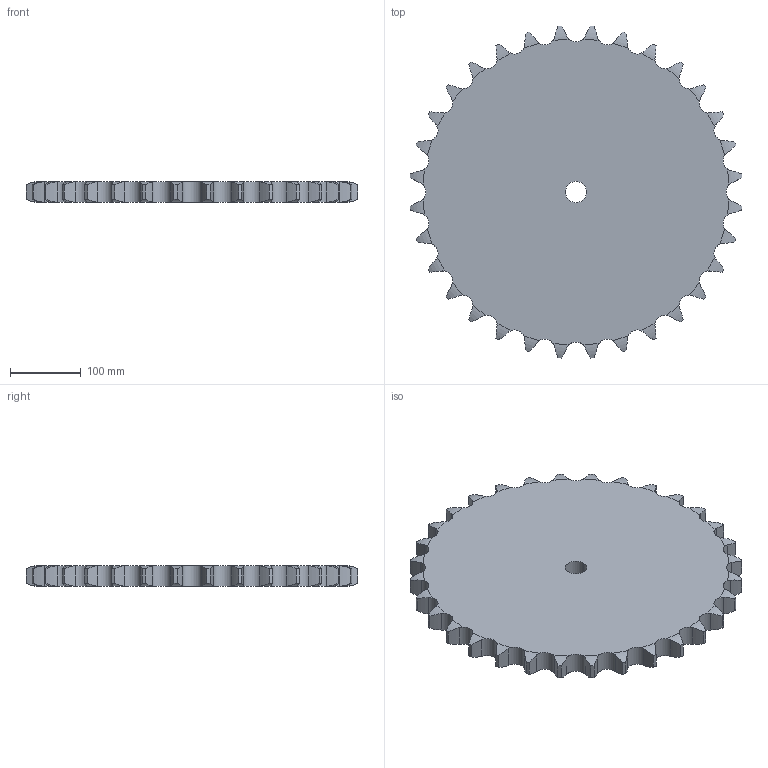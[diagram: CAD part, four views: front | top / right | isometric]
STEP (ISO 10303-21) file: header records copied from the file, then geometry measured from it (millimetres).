
FILE_DESCRIPTION((''),'2;1');
FILE_NAME('500-751-0032_PRT','2021-02-12T',('Brieden'),('Brieden'),'PRO/ENGINEER BY PARAMETRIC TECHNOLOGY CORPORATION, 2010160','PRO/ENGINEER BY PARAMETRIC TECHNOLOGY CORPORATION, 2010160','');
FILE_SCHEMA(('AUTOMOTIVE_DESIGN { 1 0 10303 214 1 1 1 1 }'));
Length unit declared in the file: millimetre
Products named in the file (1): 500-751-0032_PRT
Bounding box: 470.17 x 470.17 x 29.4 mm (x, y, z)
Volume: 4497065 mm3; surface area: 370372.2 mm2
Topology: 1 solids, 1 shells, 196 faces, 582 edges, 388 vertices
Faces by surface type: cylinder 130, torus 64, plane 2
Entity records: 10008 total; most frequent: CARTESIAN_POINT 3247, ORIENTED_EDGE 1164, DIRECTION 914, PRESENTATION_STYLE_ASSIGNMENT 583, STYLED_ITEM 583, CURVE_STYLE 582, EDGE_CURVE 582, AXIS2_PLACEMENT_3D 392
